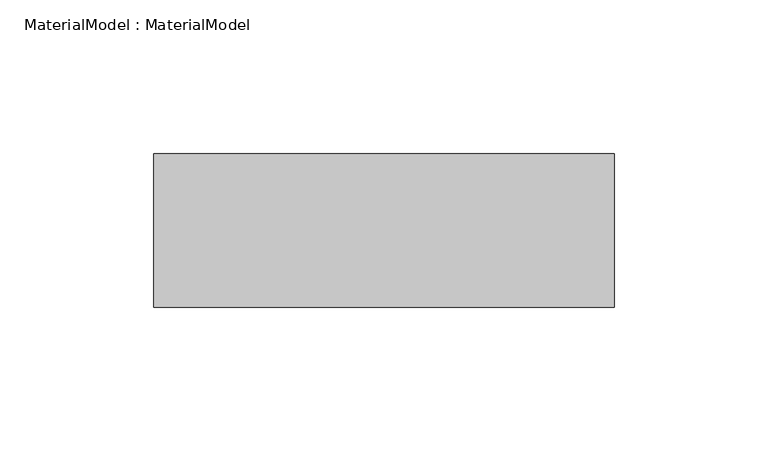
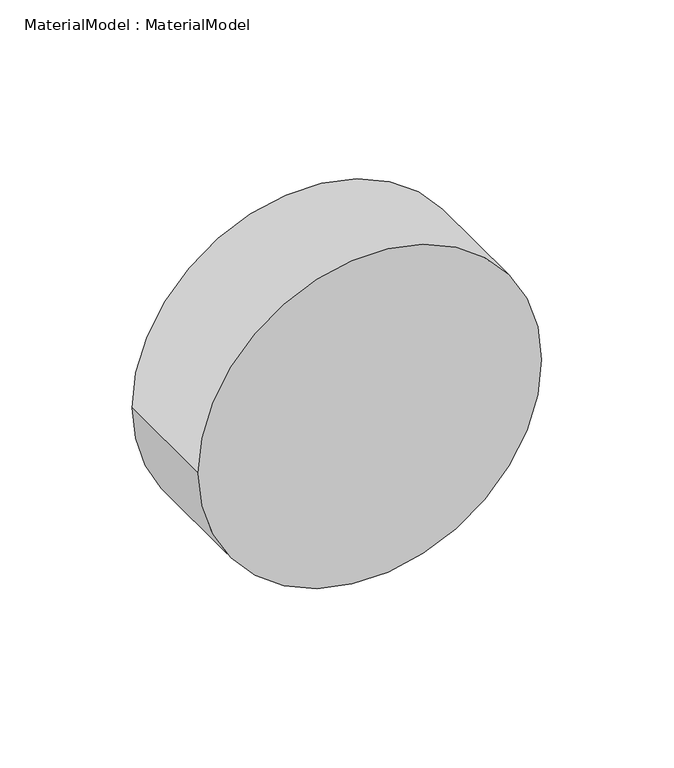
"""IFC4 building model written with IfcOpenShell, lengths in millimetres: proxy geometry, MaterialModel : MaterialModel."""

from ifc_helpers import new_model, si_unit, point, frame, frame_2d, origin, place, context, project, spatial, circle_curve, trimmed, segment, composite_curve, outline, extrude, source, transform, mapped, element, save


def materialmodel_materialmodel_17b3a4fc(model_context):
    return source(origin(), model_context, "Body", "SweptSolid", [
        extrude(outline(composite_curve([segment(trimmed(circle_curve(frame_2d((300.0, 0.0)), 75.0), [point((300.0, -75.0))], [point((300.0, 75.0))], False, "CARTESIAN"), True, "CONTINUOUS"), segment(trimmed(circle_curve(frame_2d((300.0, 0.0)), 75.0), [point((300.0, 75.0))], [point((300.0, -75.0))], False, "CARTESIAN"), True, "CONTINUOUS")], self_intersect=False)), frame((0.0, -50.0, 0.0), z_axis=(0.0, 1.0, 0.0), x_axis=(0.0, 0.0, 1.0)), (0.0, 0.0, 1.0), 50.0),
    ])


if __name__ == "__main__":
    model = new_model("IFC4")
    model_context = context("Model", 3, world=origin())
    ifc_project = project(units=[si_unit("LENGTHUNIT", "METRE", prefix="MILLI")], contexts=[model_context])
    site = spatial("IfcSite", under=ifc_project)
    building = spatial("IfcBuilding", under=site)
    placement = place(None, origin())
    materialmodel_materialmodel_shape = materialmodel_materialmodel_17b3a4fc(model_context)
    element("IfcBuildingElementProxy", 1, Name="MaterialModel : MaterialModel", ObjectType="MaterialModel : MaterialModel", at=placement, inside=building, context=model_context, shape_type="MappedRepresentation", body=[
        mapped(materialmodel_materialmodel_shape, transform((0.0, 0.0, 0.0), x_axis=(1.0, 0.0, 0.0), y_axis=(0.0, 1.0, 0.0), z_axis=(0.0, 0.0, 1.0))),
    ])
    save(model, "model.ifc")
